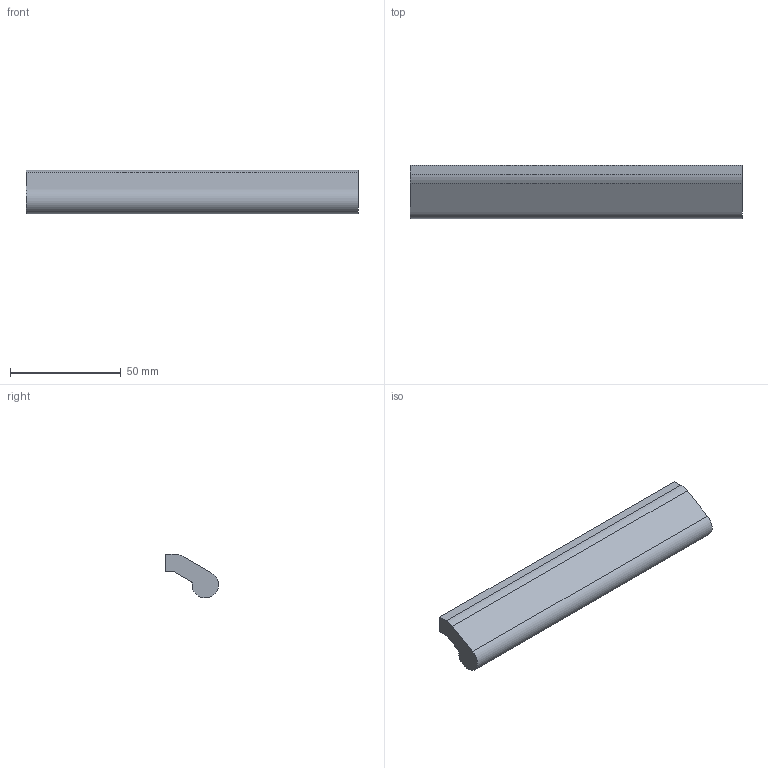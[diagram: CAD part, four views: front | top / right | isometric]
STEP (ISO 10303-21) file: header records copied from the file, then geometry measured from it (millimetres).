
FILE_DESCRIPTION( ( '' ), '1' );
FILE_NAME( 'C:/Documents and Settings/Nikhil/Desktop/Nik/Done/115101.stp', '2013-10-23T08:43:11', ( '' ), ( '' ), ' ', ' ', ' ' );
FILE_SCHEMA( ( 'automotive_design' ) );
Length unit declared in the file: millimetre
Products named in the file (1): 1
Bounding box: 150 x 24 x 19.77 mm (x, y, z)
Volume: 36123.9 mm3; surface area: 11252 mm2
Topology: 1 solids, 1 shells, 18 faces, 42 edges, 28 vertices
Faces by surface type: cylinder 9, plane 9
Entity records: 1042 total; most frequent: DIRECTION 98, STYLED_ITEM 89, PRESENTATION_STYLE_ASSIGNMENT 89, CARTESIAN_POINT 89, COLOUR_RGB 89, ORIENTED_EDGE 84, EDGE_CURVE 42, CURVE_STYLE 42
